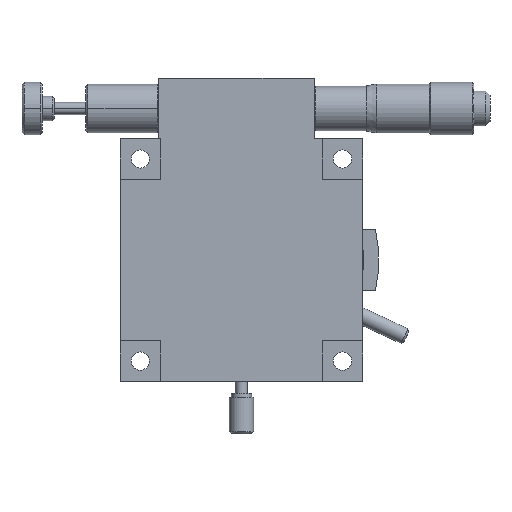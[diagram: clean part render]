
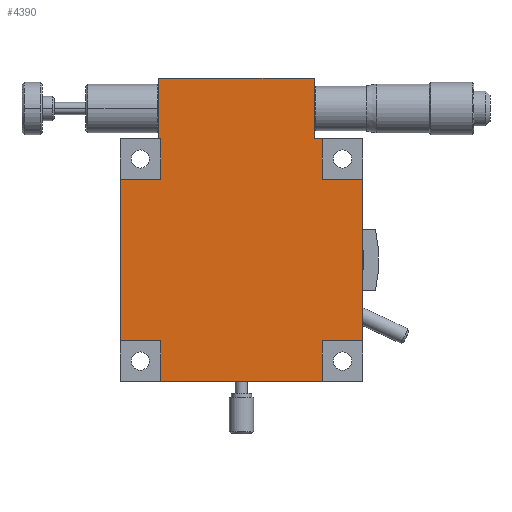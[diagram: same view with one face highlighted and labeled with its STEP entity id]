
A CAD part, front view. The second image highlights one B-rep face of the part: STEP entity #4390.
In plain terms, the highlighted planar face has unit normal (0, -1, 0).
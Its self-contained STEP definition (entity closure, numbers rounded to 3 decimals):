
#3519 = VERTEX_POINT ( 'NONE', #10990 ) ;
#3611 = VERTEX_POINT ( 'NONE', #11231 ) ;
#3684 = EDGE_CURVE ( 'NONE', #3685, #3611, #11266, .T. ) ;
#3685 = VERTEX_POINT ( 'NONE', #11360 ) ;
#4027 = VERTEX_POINT ( 'NONE', #12030 ) ;
#4057 = VERTEX_POINT ( 'NONE', #12222 ) ;
#4082 = EDGE_CURVE ( 'NONE', #4160, #4027, #12234, .T. ) ;
#4084 = VERTEX_POINT ( 'NONE', #12378 ) ;
#4158 = EDGE_CURVE ( 'NONE', #4084, #4057, #12435, .T. ) ;
#4160 = VERTEX_POINT ( 'NONE', #12431 ) ;
#4177 = EDGE_CURVE ( 'NONE', #4413, #4368, #12465, .T. ) ;
#4261 = ORIENTED_EDGE ( 'NONE', *, *, #4262, .F. ) ;
#4262 = EDGE_CURVE ( 'NONE', #4265, #4272, #12477, .T. ) ;
#4263 = VERTEX_POINT ( 'NONE', #12473 ) ;
#4264 = ORIENTED_EDGE ( 'NONE', *, *, #4284, .F. ) ;
#4265 = VERTEX_POINT ( 'NONE', #12472 ) ;
#4266 = ORIENTED_EDGE ( 'NONE', *, *, #4278, .T. ) ;
#4267 = ORIENTED_EDGE ( 'NONE', *, *, #4177, .T. ) ;
#4268 = ORIENTED_EDGE ( 'NONE', *, *, #4280, .F. ) ;
#4269 = VERTEX_POINT ( 'NONE', #12471 ) ;
#4270 = ORIENTED_EDGE ( 'NONE', *, *, #4271, .F. ) ;
#4271 = EDGE_CURVE ( 'NONE', #4272, #4057, #12470, .T. ) ;
#4272 = VERTEX_POINT ( 'NONE', #12466 ) ;
#4273 = ORIENTED_EDGE ( 'NONE', *, *, #4274, .F. ) ;
#4274 = EDGE_CURVE ( 'NONE', #4413, #4263, #12564, .T. ) ;
#4275 = ORIENTED_EDGE ( 'NONE', *, *, #4421, .T. ) ;
#4276 = ORIENTED_EDGE ( 'NONE', *, *, #4277, .F. ) ;
#4277 = EDGE_CURVE ( 'NONE', #4084, #4269, #12560, .T. ) ;
#4278 = EDGE_CURVE ( 'NONE', #4265, #4160, #12556, .T. ) ;
#4279 = ORIENTED_EDGE ( 'NONE', *, *, #4082, .T. ) ;
#4280 = EDGE_CURVE ( 'NONE', #4269, #4368, #12552, .T. ) ;
#4281 = ORIENTED_EDGE ( 'NONE', *, *, #4283, .F. ) ;
#4282 = ORIENTED_EDGE ( 'NONE', *, *, #4158, .T. ) ;
#4283 = EDGE_CURVE ( 'NONE', #4263, #4384, #12579, .T. ) ;
#4284 = EDGE_CURVE ( 'NONE', #4387, #3519, #12575, .T. ) ;
#4300 = EDGE_LOOP ( 'NONE', ( #4301, #4350, #4264, #4275, #4281, #4273, #4267, #4268, #4276, #4282, #4270, #4261, #4266, #4279, #4588, #4584 ) ) ;
#4301 = ORIENTED_EDGE ( 'NONE', *, *, #3684, .T. ) ;
#4350 = ORIENTED_EDGE ( 'NONE', *, *, #4351, .F. ) ;
#4351 = EDGE_CURVE ( 'NONE', #3519, #3611, #12686, .T. ) ;
#4368 = VERTEX_POINT ( 'NONE', #12820 ) ;
#4384 = VERTEX_POINT ( 'NONE', #12814 ) ;
#4387 = VERTEX_POINT ( 'NONE', #12812 ) ;
#4390 = ADVANCED_FACE ( 'NONE', ( #12811 ), #12810, .T. ) ;
#4413 = VERTEX_POINT ( 'NONE', #12672 ) ;
#4421 = EDGE_CURVE ( 'NONE', #4387, #4384, #12851, .T. ) ;
#4569 = VERTEX_POINT ( 'NONE', #16398 ) ;
#4584 = ORIENTED_EDGE ( 'NONE', *, *, #4589, .F. ) ;
#4588 = ORIENTED_EDGE ( 'NONE', *, *, #4599, .F. ) ;
#4589 = EDGE_CURVE ( 'NONE', #3685, #4569, #16306, .T. ) ;
#4599 = EDGE_CURVE ( 'NONE', #4569, #4027, #16501, .T. ) ;
#10990 = CARTESIAN_POINT ( 'NONE',  ( -20., 0.5, -20. ) ) ;
#11231 = CARTESIAN_POINT ( 'NONE',  ( -30., 0.5, -20. ) ) ;
#11265 = CARTESIAN_POINT ( 'NONE',  ( -30., 0.5, -30. ) ) ;
#11266 = LINE ( 'NONE', #11265, #11362 ) ;
#11360 = CARTESIAN_POINT ( 'NONE',  ( -30., 0.5, 20. ) ) ;
#11361 = DIRECTION ( 'NONE',  ( 0., 0., -1. ) ) ;
#11362 = VECTOR ( 'NONE', #11361, 1000. ) ;
#12030 = CARTESIAN_POINT ( 'NONE',  ( -20., 0.5, 30. ) ) ;
#12222 = CARTESIAN_POINT ( 'NONE',  ( 18., 0.5, 30. ) ) ;
#12233 = CARTESIAN_POINT ( 'NONE',  ( -20.5, 0.5, 30. ) ) ;
#12234 = LINE ( 'NONE', #12233, #12380 ) ;
#12378 = CARTESIAN_POINT ( 'NONE',  ( 20., 0.5, 30. ) ) ;
#12379 = DIRECTION ( 'NONE',  ( 1., 0., 0. ) ) ;
#12380 = VECTOR ( 'NONE', #12379, 1000. ) ;
#12431 = CARTESIAN_POINT ( 'NONE',  ( -20.5, 0.5, 30. ) ) ;
#12432 = DIRECTION ( 'NONE',  ( -1., 0., 0. ) ) ;
#12433 = VECTOR ( 'NONE', #12432, 1000. ) ;
#12434 = CARTESIAN_POINT ( 'NONE',  ( -30., 0.5, 30. ) ) ;
#12435 = LINE ( 'NONE', #12434, #12433 ) ;
#12441 = DIRECTION ( 'NONE',  ( 0., 0., 1. ) ) ;
#12442 = CARTESIAN_POINT ( 'NONE',  ( 30., 0.5, -30. ) ) ;
#12465 = LINE ( 'NONE', #12442, #12548 ) ;
#12466 = CARTESIAN_POINT ( 'NONE',  ( 18., 0.5, 45. ) ) ;
#12467 = DIRECTION ( 'NONE',  ( 0., 0., -1. ) ) ;
#12468 = VECTOR ( 'NONE', #12467, 1000. ) ;
#12469 = CARTESIAN_POINT ( 'NONE',  ( 18., 0.5, 45. ) ) ;
#12470 = LINE ( 'NONE', #12469, #12468 ) ;
#12471 = CARTESIAN_POINT ( 'NONE',  ( 20., 0.5, 20. ) ) ;
#12472 = CARTESIAN_POINT ( 'NONE',  ( -20.5, 0.5, 45. ) ) ;
#12473 = CARTESIAN_POINT ( 'NONE',  ( 20., 0.5, -20. ) ) ;
#12474 = DIRECTION ( 'NONE',  ( 1., 0., 0. ) ) ;
#12475 = VECTOR ( 'NONE', #12474, 1000. ) ;
#12476 = CARTESIAN_POINT ( 'NONE',  ( -20.5, 0.5, 45. ) ) ;
#12477 = LINE ( 'NONE', #12476, #12475 ) ;
#12548 = VECTOR ( 'NONE', #12441, 1000. ) ;
#12549 = DIRECTION ( 'NONE',  ( 1., 0., 0. ) ) ;
#12550 = VECTOR ( 'NONE', #12549, 1000. ) ;
#12551 = CARTESIAN_POINT ( 'NONE',  ( 30., 0.5, 20. ) ) ;
#12552 = LINE ( 'NONE', #12551, #12550 ) ;
#12553 = DIRECTION ( 'NONE',  ( 0., 0., -1. ) ) ;
#12554 = VECTOR ( 'NONE', #12553, 1000. ) ;
#12555 = CARTESIAN_POINT ( 'NONE',  ( -20.5, 0.5, 45. ) ) ;
#12556 = LINE ( 'NONE', #12555, #12554 ) ;
#12557 = DIRECTION ( 'NONE',  ( 0., 0., -1. ) ) ;
#12558 = VECTOR ( 'NONE', #12557, 1000. ) ;
#12559 = CARTESIAN_POINT ( 'NONE',  ( 20., 0.5, 30. ) ) ;
#12560 = LINE ( 'NONE', #12559, #12558 ) ;
#12561 = DIRECTION ( 'NONE',  ( -1., 0., 0. ) ) ;
#12562 = VECTOR ( 'NONE', #12561, 1000. ) ;
#12563 = CARTESIAN_POINT ( 'NONE',  ( 30., 0.5, -20. ) ) ;
#12564 = LINE ( 'NONE', #12563, #12562 ) ;
#12572 = DIRECTION ( 'NONE',  ( 0., 0., 1. ) ) ;
#12573 = VECTOR ( 'NONE', #12572, 1000. ) ;
#12574 = CARTESIAN_POINT ( 'NONE',  ( -20., 0.5, -30. ) ) ;
#12575 = LINE ( 'NONE', #12574, #12573 ) ;
#12576 = DIRECTION ( 'NONE',  ( 0., 0., -1. ) ) ;
#12577 = VECTOR ( 'NONE', #12576, 1000. ) ;
#12578 = CARTESIAN_POINT ( 'NONE',  ( 20., 0.5, -30. ) ) ;
#12579 = LINE ( 'NONE', #12578, #12577 ) ;
#12672 = CARTESIAN_POINT ( 'NONE',  ( 30., 0.5, -20. ) ) ;
#12683 = DIRECTION ( 'NONE',  ( -1., 0., 0. ) ) ;
#12684 = VECTOR ( 'NONE', #12683, 1000. ) ;
#12685 = CARTESIAN_POINT ( 'NONE',  ( -30., 0.5, -20. ) ) ;
#12686 = LINE ( 'NONE', #12685, #12684 ) ;
#12774 = DIRECTION ( 'NONE',  ( 1., 0., 0. ) ) ;
#12775 = VECTOR ( 'NONE', #12774, 1000. ) ;
#12806 = DIRECTION ( 'NONE',  ( 0., 0., -1. ) ) ;
#12807 = DIRECTION ( 'NONE',  ( 0., -1., 0. ) ) ;
#12808 = CARTESIAN_POINT ( 'NONE',  ( 0.333, 0.5, 0. ) ) ;
#12809 = AXIS2_PLACEMENT_3D ( 'NONE', #12808, #12807, #12806 ) ;
#12810 = PLANE ( 'NONE',  #12809 ) ;
#12811 = FACE_OUTER_BOUND ( 'NONE', #4300, .T. ) ;
#12812 = CARTESIAN_POINT ( 'NONE',  ( -20., 0.5, -30. ) ) ;
#12814 = CARTESIAN_POINT ( 'NONE',  ( 20., 0.5, -30. ) ) ;
#12820 = CARTESIAN_POINT ( 'NONE',  ( 30., 0.5, 20. ) ) ;
#12850 = CARTESIAN_POINT ( 'NONE',  ( -30., 0.5, -30. ) ) ;
#12851 = LINE ( 'NONE', #12850, #12775 ) ;
#16305 = CARTESIAN_POINT ( 'NONE',  ( -30., 0.5, 20. ) ) ;
#16306 = LINE ( 'NONE', #16305, #16353 ) ;
#16344 = DIRECTION ( 'NONE',  ( 0., 0., 1. ) ) ;
#16345 = VECTOR ( 'NONE', #16344, 1000. ) ;
#16346 = CARTESIAN_POINT ( 'NONE',  ( -20., 0.5, 30. ) ) ;
#16352 = DIRECTION ( 'NONE',  ( 1., 0., 0. ) ) ;
#16353 = VECTOR ( 'NONE', #16352, 1000. ) ;
#16398 = CARTESIAN_POINT ( 'NONE',  ( -20., 0.5, 20. ) ) ;
#16501 = LINE ( 'NONE', #16346, #16345 ) ;
